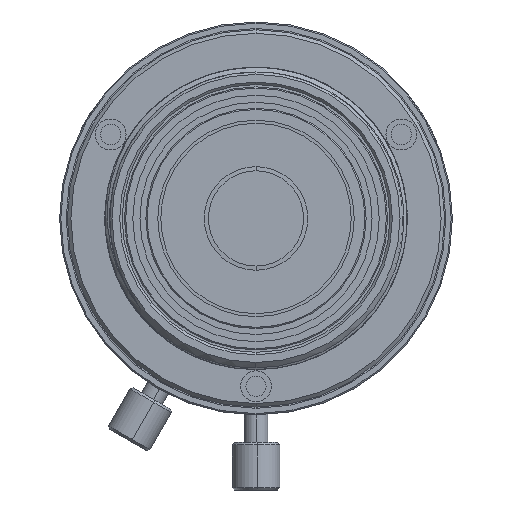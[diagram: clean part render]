
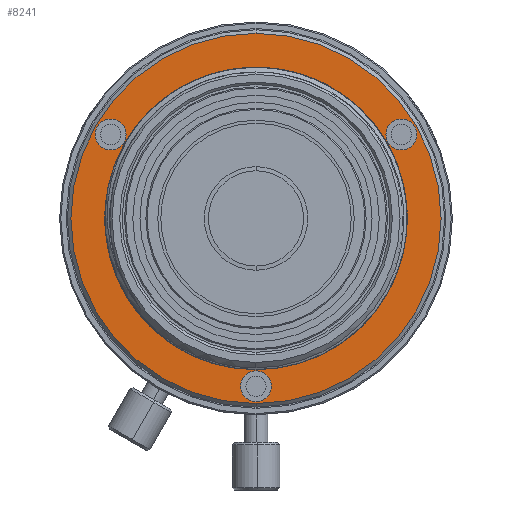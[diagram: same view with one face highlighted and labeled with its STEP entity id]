
A CAD part, front view. The second image highlights one B-rep face of the part: STEP entity #8241.
In plain terms, the highlighted planar face has unit normal (0, -1, 0).
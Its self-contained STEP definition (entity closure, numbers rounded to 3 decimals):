
#6903=CARTESIAN_POINT('',(0.,-2.674,0.));
#6904=DIRECTION('',(0.,1.,0.));
#6905=DIRECTION('',(0.,0.,-1.));
#6906=AXIS2_PLACEMENT_3D('',#6903,#6904,#6905);
#6908=CARTESIAN_POINT('',(0.,-2.674,0.));
#6909=DIRECTION('',(0.,-1.,0.));
#6910=DIRECTION('',(0.,0.,-1.));
#6911=AXIS2_PLACEMENT_3D('',#6908,#6909,#6910);
#6913=CARTESIAN_POINT('',(0.,-2.674,0.));
#6914=DIRECTION('',(0.,1.,0.));
#6915=DIRECTION('',(0.,0.,-1.));
#6916=AXIS2_PLACEMENT_3D('',#6913,#6914,#6915);
#6918=CARTESIAN_POINT('',(0.,-2.674,0.));
#6919=DIRECTION('',(0.,1.,0.));
#6920=DIRECTION('',(0.,0.,1.));
#6921=AXIS2_PLACEMENT_3D('',#6918,#6919,#6920);
#6923=CARTESIAN_POINT('',(0.,-2.674,-14.1));
#6924=DIRECTION('',(0.,-1.,0.));
#6925=DIRECTION('',(0.,0.,-1.));
#6926=AXIS2_PLACEMENT_3D('',#6923,#6924,#6925);
#6928=CARTESIAN_POINT('',(0.,-2.674,-14.1));
#6929=DIRECTION('',(0.,-1.,0.));
#6930=DIRECTION('',(0.,0.,1.));
#6931=AXIS2_PLACEMENT_3D('',#6928,#6929,#6930);
#6933=CARTESIAN_POINT('',(12.211,-2.674,7.05));
#6934=DIRECTION('',(0.,-1.,0.));
#6935=DIRECTION('',(0.866,0.,0.5));
#6936=AXIS2_PLACEMENT_3D('',#6933,#6934,#6935);
#6938=CARTESIAN_POINT('',(12.211,-2.674,7.05));
#6939=DIRECTION('',(0.,-1.,0.));
#6940=DIRECTION('',(-0.866,0.,-0.5));
#6941=AXIS2_PLACEMENT_3D('',#6938,#6939,#6940);
#6943=CARTESIAN_POINT('',(-12.211,-2.674,7.05));
#6944=DIRECTION('',(0.,-1.,0.));
#6945=DIRECTION('',(-0.866,0.,0.5));
#6946=AXIS2_PLACEMENT_3D('',#6943,#6944,#6945);
#6948=CARTESIAN_POINT('',(-12.211,-2.674,7.05));
#6949=DIRECTION('',(0.,-1.,0.));
#6950=DIRECTION('',(0.866,0.,-0.5));
#6951=AXIS2_PLACEMENT_3D('',#6948,#6949,#6950);
#7987=CARTESIAN_POINT('',(0.,-2.674,-12.1));
#7988=CARTESIAN_POINT('',(0.,-2.674,12.1));
#7989=VERTEX_POINT('',#7987);
#7990=VERTEX_POINT('',#7988);
#7995=CARTESIAN_POINT('',(0.,-2.674,-15.55));
#7996=CARTESIAN_POINT('',(0.,-2.674,15.55));
#7997=VERTEX_POINT('',#7995);
#7998=VERTEX_POINT('',#7996);
#8035=CARTESIAN_POINT('',(0.,-2.674,-15.4));
#8036=CARTESIAN_POINT('',(0.,-2.674,-12.8));
#8037=VERTEX_POINT('',#8035);
#8038=VERTEX_POINT('',#8036);
#8051=CARTESIAN_POINT('',(13.337,-2.674,7.7));
#8052=CARTESIAN_POINT('',(11.085,-2.674,6.4));
#8053=VERTEX_POINT('',#8051);
#8054=VERTEX_POINT('',#8052);
#8067=CARTESIAN_POINT('',(-13.337,-2.674,7.7));
#8068=CARTESIAN_POINT('',(-11.085,-2.674,6.4));
#8069=VERTEX_POINT('',#8067);
#8070=VERTEX_POINT('',#8068);
#8208=CARTESIAN_POINT('',(0.,-2.674,0.));
#8209=DIRECTION('',(0.,-1.,0.));
#8210=DIRECTION('',(0.,0.,1.));
#8211=AXIS2_PLACEMENT_3D('',#8208,#8209,#8210);
#8212=PLANE('',#8211);
#8213=ORIENTED_EDGE('',*,*,#8188,.T.);
#8214=ORIENTED_EDGE('',*,*,#8202,.T.);
#8215=EDGE_LOOP('',(#8213,#8214));
#8216=FACE_OUTER_BOUND('',#8215,.F.);
#8218=ORIENTED_EDGE('',*,*,#8217,.F.);
#8220=ORIENTED_EDGE('',*,*,#8219,.T.);
#8221=EDGE_LOOP('',(#8218,#8220));
#8222=FACE_BOUND('',#8221,.F.);
#8224=ORIENTED_EDGE('',*,*,#8223,.T.);
#8226=ORIENTED_EDGE('',*,*,#8225,.T.);
#8227=EDGE_LOOP('',(#8224,#8226));
#8228=FACE_BOUND('',#8227,.F.);
#8230=ORIENTED_EDGE('',*,*,#8229,.T.);
#8232=ORIENTED_EDGE('',*,*,#8231,.T.);
#8233=EDGE_LOOP('',(#8230,#8232));
#8234=FACE_BOUND('',#8233,.F.);
#8236=ORIENTED_EDGE('',*,*,#8235,.T.);
#8238=ORIENTED_EDGE('',*,*,#8237,.T.);
#8239=EDGE_LOOP('',(#8236,#8238));
#8240=FACE_BOUND('',#8239,.F.);
#8241=ADVANCED_FACE('',(#8216,#8222,#8228,#8234,#8240),#8212,.T.);
#6907=CIRCLE('',#6906,12.1);
#6912=CIRCLE('',#6911,12.1);
#6917=CIRCLE('',#6916,15.55);
#6922=CIRCLE('',#6921,15.55);
#6927=CIRCLE('',#6926,1.3);
#6932=CIRCLE('',#6931,1.3);
#6937=CIRCLE('',#6936,1.3);
#6942=CIRCLE('',#6941,1.3);
#6947=CIRCLE('',#6946,1.3);
#6952=CIRCLE('',#6951,1.3);
#8188=EDGE_CURVE('',#7997,#7998,#6917,.T.);
#8202=EDGE_CURVE('',#7998,#7997,#6922,.T.);
#8217=EDGE_CURVE('',#7989,#7990,#6907,.T.);
#8219=EDGE_CURVE('',#7989,#7990,#6912,.T.);
#8223=EDGE_CURVE('',#8037,#8038,#6927,.T.);
#8225=EDGE_CURVE('',#8038,#8037,#6932,.T.);
#8229=EDGE_CURVE('',#8053,#8054,#6937,.T.);
#8231=EDGE_CURVE('',#8054,#8053,#6942,.T.);
#8235=EDGE_CURVE('',#8069,#8070,#6947,.T.);
#8237=EDGE_CURVE('',#8070,#8069,#6952,.T.);
